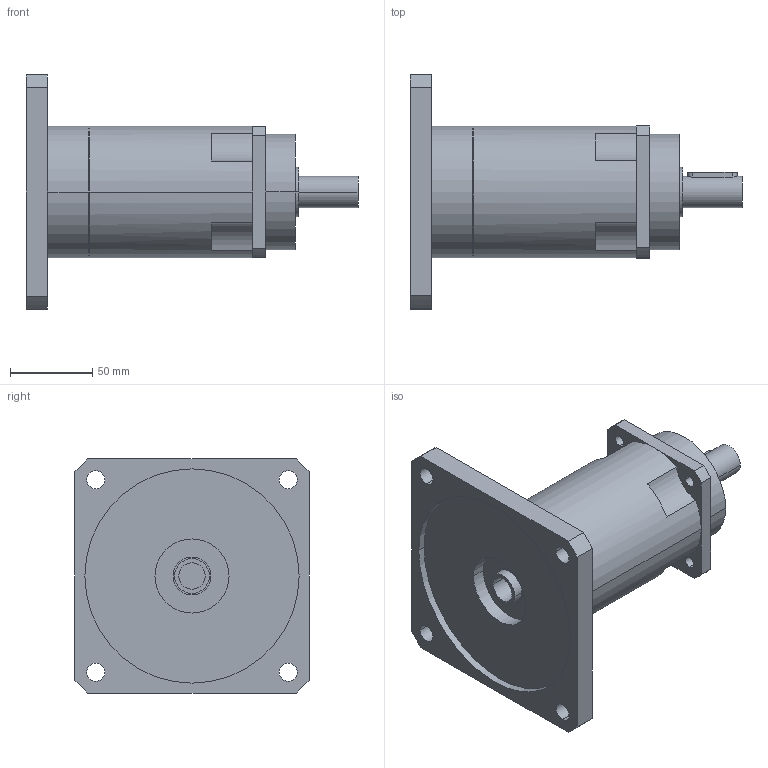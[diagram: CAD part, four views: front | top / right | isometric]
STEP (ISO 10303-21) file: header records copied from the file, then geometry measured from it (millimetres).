
FILE_DESCRIPTION(('CoCreate Modeling STEP Export'),'2;1');
FILE_NAME('GPR100_ig-48-64-80-100-120-144-180-216_19_B5_16_P16.stp','2014-08-26T11:56:15',(''),(''),'CoCreate Modeling STEP processor for AP214 (Solid Model)','CoCreate Modeling 16.00C 25-Feb-2009 (C) Parametric Technology GmbH','');
FILE_SCHEMA(('AUTOMOTIVE_DESIGN { 1 0 10303 214 1 1 1 1 }'));
Length unit declared in the file: millimetre
Products named in the file (2): GPR100_ig-48-64-80-100-120-144-180-216_19_B5_16_P16
Assembly tree (1 placements, depth 2):
  GPR100_ig-48-64-80-100-120-144-180-216_19_B5_16_P16
    GPR100_ig-48-64-80-100-120-144-180-216_19_B5_16_P16
Bounding box: 201.4 x 142 x 142 mm (x, y, z)
Volume: 924594.4 mm3; surface area: 97915.9 mm2
Topology: 1 solids, 1 shells, 89 faces, 245 edges, 167 vertices
Faces by surface type: cylinder 52, plane 31, cone 6
Entity records: 2602 total; most frequent: ORIENTED_EDGE 486, CARTESIAN_POINT 472, DIRECTION 386, EDGE_CURVE 243, VERTEX_POINT 167, AXIS2_PLACEMENT_3D 145, EDGE_LOOP 116, VECTOR 96
